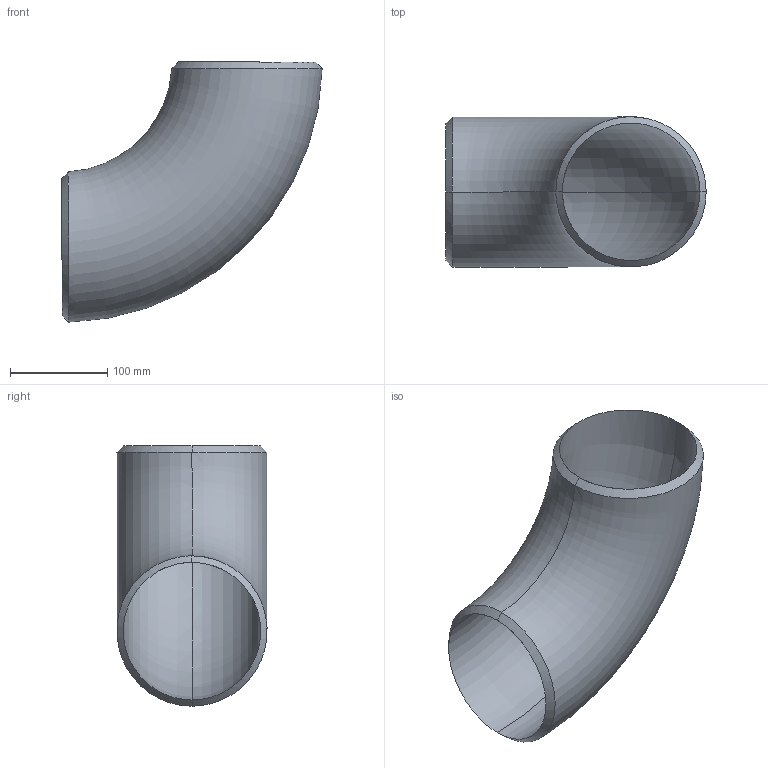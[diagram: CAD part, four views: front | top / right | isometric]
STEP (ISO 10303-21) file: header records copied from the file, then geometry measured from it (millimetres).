
FILE_DESCRIPTION (( 'STEP AP203' ), '1' );
FILE_NAME ('3D_R2651_5X40S_173421230_173425240.STEP', '2024-08-22T09:08:36', ( '' ), ( '' ), 'SwSTEP 2.0', 'SolidWorks 2024', '' );
FILE_SCHEMA (( 'CONFIG_CONTROL_DESIGN' ));
Length unit declared in the file: millimetre
Products named in the file (1): 3D_R2651_5X40S_173421230_173425240
Bounding box: 267.6 x 154.2 x 267.6 mm (x, y, z)
Volume: 863828.8 mm3; surface area: 279925.1 mm2
Topology: 1 solids, 1 shells, 10 faces, 26 edges, 16 vertices
Faces by surface type: bspline 4, torus 4, plane 2
Entity records: 3507 total; most frequent: CARTESIAN_POINT 3221, ORIENTED_EDGE 52, DIRECTION 30, EDGE_CURVE 26, B_SPLINE_CURVE_WITH_KNOTS 18, VERTEX_POINT 16, AXIS2_PLACEMENT_3D 15, FACE_OUTER_BOUND 10
